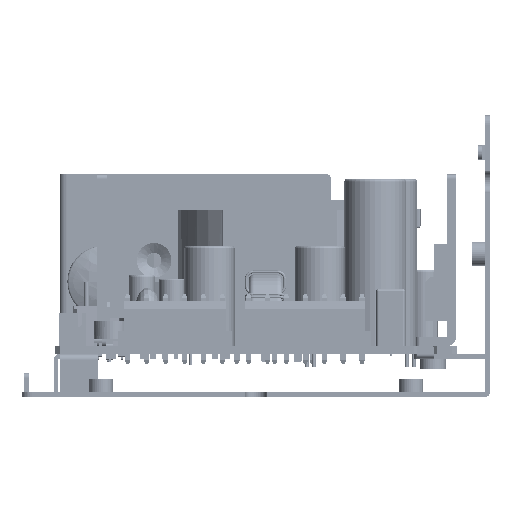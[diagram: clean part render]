
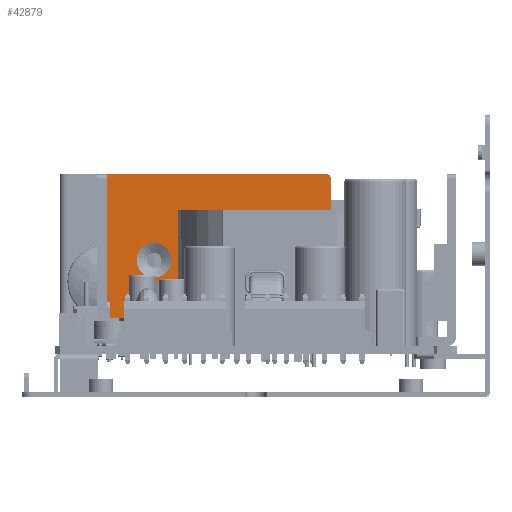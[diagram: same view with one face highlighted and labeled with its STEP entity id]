
A CAD part, left-side view. The second image highlights one B-rep face of the part: STEP entity #42879.
In plain terms, the highlighted planar face has unit normal (-1, 0, 0) as drawn and (0, 0, 1) by its records, which use the part's own axes.
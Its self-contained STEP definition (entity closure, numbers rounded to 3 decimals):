
#41682=DIRECTION('',(1.,0.,0.));
#41683=VECTOR('',#41682,5.2);
#41684=CARTESIAN_POINT('',(42.8,0.,-33.5));
#41685=LINE('',#41684,#41683);
#41698=DIRECTION('',(1.,0.,0.));
#41699=VECTOR('',#41698,20.6);
#41700=CARTESIAN_POINT('',(20.6,0.,-33.5));
#41701=LINE('',#41700,#41699);
#41750=CARTESIAN_POINT('',(11.9,18.,-33.5));
#41751=DIRECTION('',(0.,0.,1.));
#41752=DIRECTION('',(0.,1.,0.));
#41753=AXIS2_PLACEMENT_3D('',#41750,#41751,#41752);
#41755=CARTESIAN_POINT('',(11.9,18.,-33.5));
#41756=DIRECTION('',(0.,0.,1.));
#41757=DIRECTION('',(0.,-1.,0.));
#41758=AXIS2_PLACEMENT_3D('',#41755,#41756,#41757);
#41760=CARTESIAN_POINT('',(24.9,18.,-33.5));
#41761=DIRECTION('',(0.,0.,1.));
#41762=DIRECTION('',(0.,1.,0.));
#41763=AXIS2_PLACEMENT_3D('',#41760,#41761,#41762);
#41765=CARTESIAN_POINT('',(24.9,18.,-33.5));
#41766=DIRECTION('',(0.,0.,1.));
#41767=DIRECTION('',(0.,-1.,0.));
#41768=AXIS2_PLACEMENT_3D('',#41765,#41766,#41767);
#41770=DIRECTION('',(-1.,0.,0.));
#41771=VECTOR('',#41770,2.8);
#41772=CARTESIAN_POINT('',(43.4,9.2,-33.5));
#41773=LINE('',#41772,#41771);
#41774=DIRECTION('',(0.,-1.,0.));
#41775=VECTOR('',#41774,7.5);
#41776=CARTESIAN_POINT('',(39.6,8.2,-33.5));
#41777=LINE('',#41776,#41775);
#41778=DIRECTION('',(1.,0.,0.));
#41779=VECTOR('',#41778,1.1);
#41780=CARTESIAN_POINT('',(40.1,0.2,-33.5));
#41781=LINE('',#41780,#41779);
#41782=DIRECTION('',(0.,1.,0.));
#41783=VECTOR('',#41782,0.2);
#41784=CARTESIAN_POINT('',(41.2,0.,-33.5));
#41785=LINE('',#41784,#41783);
#41786=CARTESIAN_POINT('',(20.6,1.,-33.5));
#41787=DIRECTION('',(0.,0.,1.));
#41788=DIRECTION('',(-1.,0.,0.));
#41789=AXIS2_PLACEMENT_3D('',#41786,#41787,#41788);
#41791=DIRECTION('',(0.,1.,0.));
#41792=VECTOR('',#41791,5.);
#41793=CARTESIAN_POINT('',(19.6,1.,-33.5));
#41794=LINE('',#41793,#41792);
#41795=DIRECTION('',(1.,0.,0.));
#41796=VECTOR('',#41795,17.6);
#41797=CARTESIAN_POINT('',(2.,6.,-33.5));
#41798=LINE('',#41797,#41796);
#41799=DIRECTION('',(0.,1.,0.));
#41800=VECTOR('',#41799,30.);
#41801=CARTESIAN_POINT('',(2.,6.,-33.5));
#41802=LINE('',#41801,#41800);
#41803=CARTESIAN_POINT('',(48.,35.,-33.5));
#41804=DIRECTION('',(0.,0.,1.));
#41805=DIRECTION('',(1.,0.,0.));
#41806=AXIS2_PLACEMENT_3D('',#41803,#41804,#41805);
#41808=CARTESIAN_POINT('',(48.,1.,-33.5));
#41809=DIRECTION('',(0.,0.,1.));
#41810=DIRECTION('',(0.,-1.,0.));
#41811=AXIS2_PLACEMENT_3D('',#41808,#41809,#41810);
#41813=DIRECTION('',(0.,1.,0.));
#41814=VECTOR('',#41813,0.2);
#41815=CARTESIAN_POINT('',(42.8,0.,-33.5));
#41816=LINE('',#41815,#41814);
#41817=DIRECTION('',(1.,0.,0.));
#41818=VECTOR('',#41817,1.1);
#41819=CARTESIAN_POINT('',(42.8,0.2,-33.5));
#41820=LINE('',#41819,#41818);
#41821=DIRECTION('',(0.,1.,0.));
#41822=VECTOR('',#41821,7.5);
#41823=CARTESIAN_POINT('',(44.4,0.7,-33.5));
#41824=LINE('',#41823,#41822);
#41921=DIRECTION('',(0.707,-0.707,0.));
#41922=VECTOR('',#41921,1.414);
#41923=CARTESIAN_POINT('',(43.4,9.2,-33.5));
#41924=LINE('',#41923,#41922);
#41933=CARTESIAN_POINT('',(43.9,0.7,-33.5));
#41934=DIRECTION('',(0.,0.,-1.));
#41935=DIRECTION('',(1.,0.,0.));
#41936=AXIS2_PLACEMENT_3D('',#41933,#41934,#41935);
#41992=CARTESIAN_POINT('',(40.1,0.7,-33.5));
#41993=DIRECTION('',(0.,0.,-1.));
#41994=DIRECTION('',(0.,-1.,0.));
#41995=AXIS2_PLACEMENT_3D('',#41992,#41993,#41994);
#42005=DIRECTION('',(0.707,0.707,0.));
#42006=VECTOR('',#42005,1.414);
#42007=CARTESIAN_POINT('',(39.6,8.2,-33.5));
#42008=LINE('',#42007,#42006);
#42488=DIRECTION('',(1.,0.,0.));
#42489=VECTOR('',#42488,46.);
#42490=CARTESIAN_POINT('',(2.,36.,-33.5));
#42491=LINE('',#42490,#42489);
#42500=DIRECTION('',(0.,1.,0.));
#42501=VECTOR('',#42500,34.);
#42502=CARTESIAN_POINT('',(49.,1.,-33.5));
#42503=LINE('',#42502,#42501);
#42508=CARTESIAN_POINT('',(2.,6.,-33.5));
#42509=CARTESIAN_POINT('',(19.6,6.,-33.5));
#42510=VERTEX_POINT('',#42508);
#42511=VERTEX_POINT('',#42509);
#42512=CARTESIAN_POINT('',(2.,36.,-33.5));
#42513=VERTEX_POINT('',#42512);
#42528=CARTESIAN_POINT('',(11.9,21.628,-33.5));
#42529=CARTESIAN_POINT('',(11.9,14.372,-33.5));
#42530=VERTEX_POINT('',#42528);
#42531=VERTEX_POINT('',#42529);
#42540=CARTESIAN_POINT('',(24.9,21.628,-33.5));
#42541=CARTESIAN_POINT('',(24.9,14.372,-33.5));
#42542=VERTEX_POINT('',#42540);
#42543=VERTEX_POINT('',#42541);
#42572=CARTESIAN_POINT('',(19.6,1.,-33.5));
#42573=VERTEX_POINT('',#42572);
#42574=CARTESIAN_POINT('',(20.6,0.,-33.5));
#42575=VERTEX_POINT('',#42574);
#42576=CARTESIAN_POINT('',(48.,0.,-33.5));
#42577=CARTESIAN_POINT('',(49.,1.,-33.5));
#42578=VERTEX_POINT('',#42576);
#42579=VERTEX_POINT('',#42577);
#42588=CARTESIAN_POINT('',(49.,35.,-33.5));
#42589=VERTEX_POINT('',#42588);
#42590=CARTESIAN_POINT('',(48.,36.,-33.5));
#42591=VERTEX_POINT('',#42590);
#42600=CARTESIAN_POINT('',(41.2,0.,-33.5));
#42601=CARTESIAN_POINT('',(42.8,0.,-33.5));
#42602=VERTEX_POINT('',#42600);
#42603=VERTEX_POINT('',#42601);
#42612=CARTESIAN_POINT('',(41.2,0.2,-33.5));
#42613=VERTEX_POINT('',#42612);
#42614=CARTESIAN_POINT('',(42.8,0.2,-33.5));
#42615=VERTEX_POINT('',#42614);
#42637=CARTESIAN_POINT('',(43.9,0.2,-33.5));
#42639=VERTEX_POINT('',#42637);
#42642=CARTESIAN_POINT('',(44.4,0.7,-33.5));
#42643=VERTEX_POINT('',#42642);
#42645=CARTESIAN_POINT('',(39.6,0.7,-33.5));
#42647=VERTEX_POINT('',#42645);
#42650=CARTESIAN_POINT('',(40.1,0.2,-33.5));
#42651=VERTEX_POINT('',#42650);
#42653=CARTESIAN_POINT('',(44.4,8.2,-33.5));
#42655=VERTEX_POINT('',#42653);
#42658=CARTESIAN_POINT('',(43.4,9.2,-33.5));
#42659=VERTEX_POINT('',#42658);
#42661=CARTESIAN_POINT('',(40.6,9.2,-33.5));
#42663=VERTEX_POINT('',#42661);
#42666=CARTESIAN_POINT('',(39.6,8.2,-33.5));
#42667=VERTEX_POINT('',#42666);
#42820=CARTESIAN_POINT('',(2.,0.,-33.5));
#42821=DIRECTION('',(0.,0.,1.));
#42822=DIRECTION('',(1.,0.,0.));
#42823=AXIS2_PLACEMENT_3D('',#42820,#42821,#42822);
#42824=PLANE('',#42823);
#42826=ORIENTED_EDGE('',*,*,#42825,.T.);
#42828=ORIENTED_EDGE('',*,*,#42827,.F.);
#42830=ORIENTED_EDGE('',*,*,#42829,.T.);
#42832=ORIENTED_EDGE('',*,*,#42831,.F.);
#42834=ORIENTED_EDGE('',*,*,#42833,.T.);
#42836=ORIENTED_EDGE('',*,*,#42835,.F.);
#42837=ORIENTED_EDGE('',*,*,#42769,.F.);
#42839=ORIENTED_EDGE('',*,*,#42838,.F.);
#42841=ORIENTED_EDGE('',*,*,#42840,.T.);
#42843=ORIENTED_EDGE('',*,*,#42842,.F.);
#42845=ORIENTED_EDGE('',*,*,#42844,.T.);
#42847=ORIENTED_EDGE('',*,*,#42846,.T.);
#42849=ORIENTED_EDGE('',*,*,#42848,.F.);
#42851=ORIENTED_EDGE('',*,*,#42850,.F.);
#42853=ORIENTED_EDGE('',*,*,#42852,.F.);
#42854=ORIENTED_EDGE('',*,*,#42761,.F.);
#42856=ORIENTED_EDGE('',*,*,#42855,.T.);
#42858=ORIENTED_EDGE('',*,*,#42857,.T.);
#42860=ORIENTED_EDGE('',*,*,#42859,.F.);
#42862=ORIENTED_EDGE('',*,*,#42861,.T.);
#42864=ORIENTED_EDGE('',*,*,#42863,.F.);
#42865=EDGE_LOOP('',(#42826,#42828,#42830,#42832,#42834,#42836,#42837,#42839,
#42841,#42843,#42845,#42847,#42849,#42851,#42853,#42854,#42856,#42858,#42860,
#42862,#42864));
#42866=FACE_OUTER_BOUND('',#42865,.F.);
#42868=ORIENTED_EDGE('',*,*,#42867,.T.);
#42870=ORIENTED_EDGE('',*,*,#42869,.T.);
#42871=EDGE_LOOP('',(#42868,#42870));
#42872=FACE_BOUND('',#42871,.F.);
#42874=ORIENTED_EDGE('',*,*,#42873,.T.);
#42876=ORIENTED_EDGE('',*,*,#42875,.T.);
#42877=EDGE_LOOP('',(#42874,#42876));
#42878=FACE_BOUND('',#42877,.F.);
#41754=CIRCLE('',#41753,3.628);
#41759=CIRCLE('',#41758,3.628);
#41764=CIRCLE('',#41763,3.628);
#41769=CIRCLE('',#41768,3.628);
#41790=CIRCLE('',#41789,1.);
#41807=CIRCLE('',#41806,1.);
#41812=CIRCLE('',#41811,1.);
#41937=CIRCLE('',#41936,0.5);
#41996=CIRCLE('',#41995,0.5);
#42761=EDGE_CURVE('',#42603,#42578,#41685,.T.);
#42769=EDGE_CURVE('',#42575,#42602,#41701,.T.);
#42825=EDGE_CURVE('',#42659,#42663,#41773,.T.);
#42827=EDGE_CURVE('',#42667,#42663,#42008,.T.);
#42829=EDGE_CURVE('',#42667,#42647,#41777,.T.);
#42831=EDGE_CURVE('',#42651,#42647,#41996,.T.);
#42833=EDGE_CURVE('',#42651,#42613,#41781,.T.);
#42835=EDGE_CURVE('',#42602,#42613,#41785,.T.);
#42838=EDGE_CURVE('',#42573,#42575,#41790,.T.);
#42840=EDGE_CURVE('',#42573,#42511,#41794,.T.);
#42842=EDGE_CURVE('',#42510,#42511,#41798,.T.);
#42844=EDGE_CURVE('',#42510,#42513,#41802,.T.);
#42846=EDGE_CURVE('',#42513,#42591,#42491,.T.);
#42848=EDGE_CURVE('',#42589,#42591,#41807,.T.);
#42850=EDGE_CURVE('',#42579,#42589,#42503,.T.);
#42852=EDGE_CURVE('',#42578,#42579,#41812,.T.);
#42855=EDGE_CURVE('',#42603,#42615,#41816,.T.);
#42857=EDGE_CURVE('',#42615,#42639,#41820,.T.);
#42859=EDGE_CURVE('',#42643,#42639,#41937,.T.);
#42861=EDGE_CURVE('',#42643,#42655,#41824,.T.);
#42863=EDGE_CURVE('',#42659,#42655,#41924,.T.);
#42867=EDGE_CURVE('',#42530,#42531,#41754,.T.);
#42869=EDGE_CURVE('',#42531,#42530,#41759,.T.);
#42873=EDGE_CURVE('',#42542,#42543,#41764,.T.);
#42875=EDGE_CURVE('',#42543,#42542,#41769,.T.);
#42879=ADVANCED_FACE('',(#42866,#42872,#42878),#42824,.T.);
